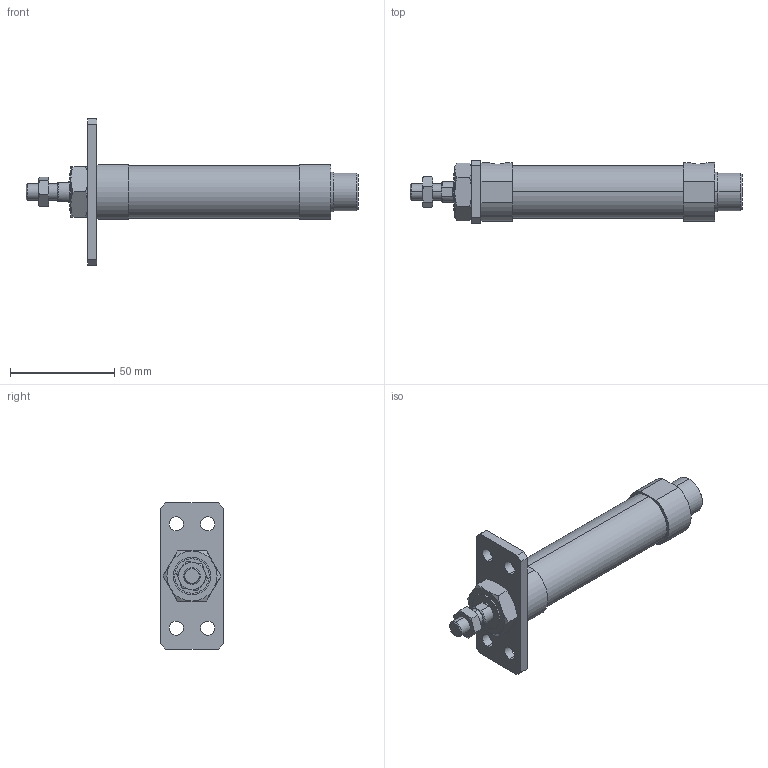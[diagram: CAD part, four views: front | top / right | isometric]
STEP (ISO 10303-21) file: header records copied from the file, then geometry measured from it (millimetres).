
FILE_DESCRIPTION (( 'STEP AP203' ), '1' );
FILE_NAME ('J#2-20-50-A.STEP', '2016-03-08T06:56:35', ( '' ), ( '' ), 'SwSTEP 2.0', 'SolidWorks 2014', '' );
FILE_SCHEMA (( 'CONFIG_CONTROL_DESIGN' ));
Length unit declared in the file: millimetre
Products named in the file (5): J#2-20-50-A; J#2-20-A; J#2-20-50
Assembly tree (4 placements, depth 2):
  J#2-20-50-A
    J#2-20-50
    (unnamed)
    (unnamed)
    J#2-20-A
Bounding box: 159 x 30 x 70 mm (x, y, z)
Volume: 74944.6 mm3; surface area: 20213.1 mm2
Topology: 4 solids, 4 shells, 112 faces, 252 edges, 158 vertices
Faces by surface type: plane 46, cylinder 36, torus 24, cone 6
Entity records: 4013 total; most frequent: CARTESIAN_POINT 985, DIRECTION 536, ORIENTED_EDGE 504, EDGE_CURVE 252, AXIS2_PLACEMENT_3D 221, VERTEX_POINT 158, EDGE_LOOP 136, FACE_OUTER_BOUND 112
